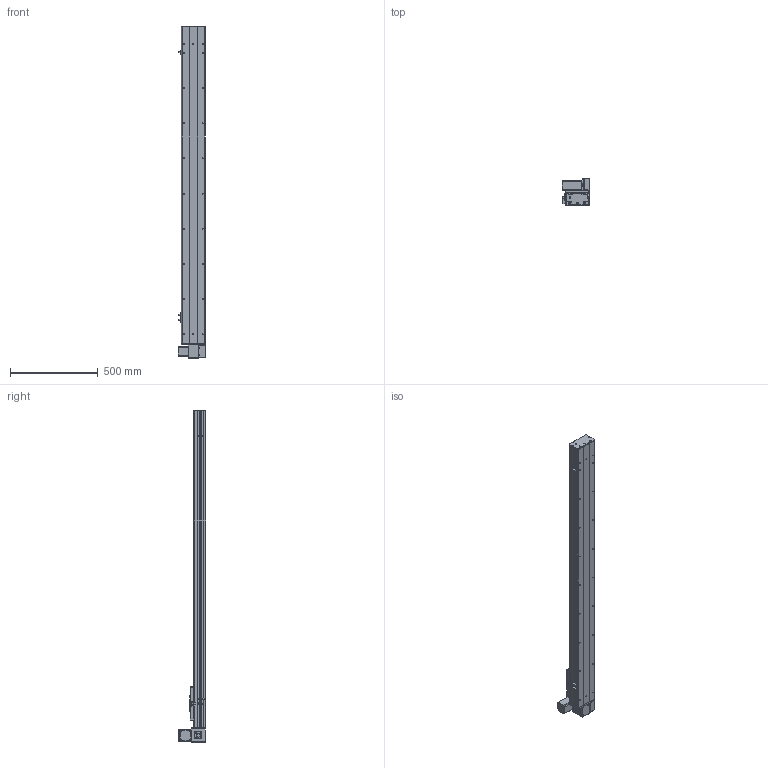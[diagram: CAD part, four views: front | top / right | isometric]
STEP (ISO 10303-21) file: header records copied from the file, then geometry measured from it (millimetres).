
FILE_DESCRIPTION (( 'STEP AP203' ), '1' );
FILE_NAME ('Y135CB-D90-S1500-UL-P400W.STEP', '2020-02-18T07:35:27', ( '微软用户' ), ( '微软中国' ), 'SwSTEP 2.0', 'SolidWorks 2017', '' );
FILE_SCHEMA (( 'CONFIG_CONTROL_DESIGN' ));
Length unit declared in the file: millimetre
Products named in the file (18): 5CB --掛极耜裔啣-; 00B-俋欶BM--; C-詩湍揤踡え-陔; Y135CB-耜裔; Y10B--々湍喘謫眊--666; 135CB--詩湍-CE; 135CB---遴掛极.-; Y135CB-D90-S1500-UL-P400W; Y100-135俋离換覜ん--; 35CB---喘謫眊楊擘啣; Y135C-陔俋离換覜結え-; 0B-埴倛裔啣; 0B-源倛裔啣; 5C--俋欶; 0B-萇儂楊擘啣; C-雄赽釱--; san松下电机400不带刹车----; Y10B-耜蚾蟀諉啣----
Assembly tree (21 placements, depth 2):
  Y135CB-D90-S1500-UL-P400W
    Y135CB-耜裔
    135CB---遴掛极.-
    35CB---喘謫眊楊擘啣
    0B-埴倛裔啣
    0B-源倛裔啣
    0B-萇儂楊擘啣
    san松下电机400不带刹车----
    5CB --掛极耜裔啣-  x2
    C-詩湍揤踡え-陔  x2
    135CB--詩湍-CE
    Y100-135俋离換覜ん--  x3
    Y135C-陔俋离換覜結え-
    5C--俋欶
    C-雄赽釱--
    Y10B-耜蚾蟀諉啣----
    00B-俋欶BM--
    Y10B--々湍喘謫眊--666
Bounding box: 157 x 158.7 x 1888 mm (x, y, z)
Volume: 5684794.4 mm3; surface area: 2237532.9 mm2
Topology: 21 solids, 21 shells, 957 faces, 2581 edges, 1710 vertices
Faces by surface type: cylinder 485, plane 456, cone 16
Entity records: 29955 total; most frequent: DIRECTION 4977, CARTESIAN_POINT 4944, ORIENTED_EDGE 4638, EDGE_CURVE 2319, AXIS2_PLACEMENT_3D 1819, VERTEX_POINT 1538, LINE 1339, VECTOR 1339
